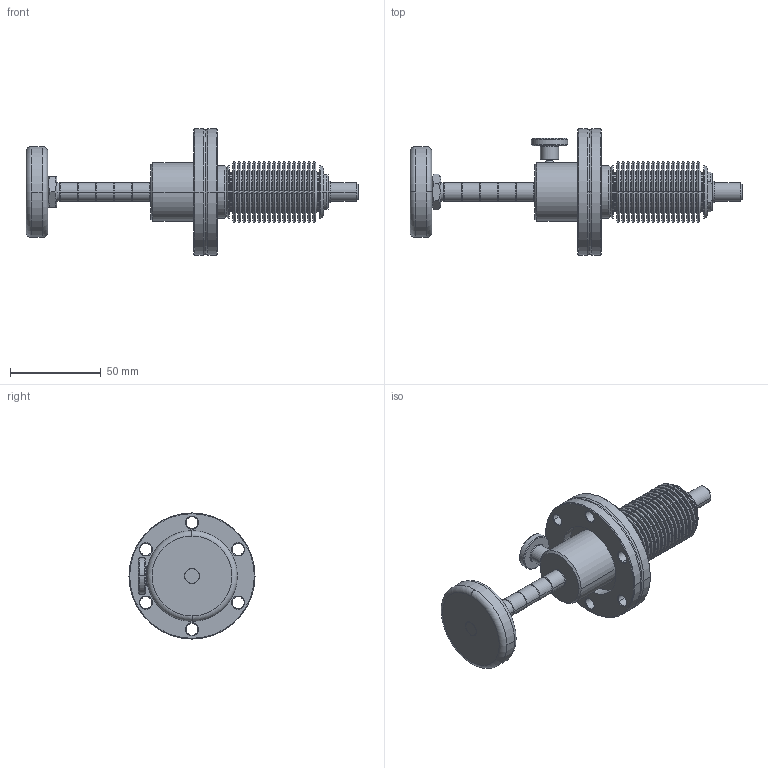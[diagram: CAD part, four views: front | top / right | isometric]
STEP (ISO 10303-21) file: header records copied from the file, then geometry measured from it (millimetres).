
FILE_DESCRIPTION((''),'2;1');
FILE_NAME('W:\214-332.stp','2004-01-23T16:33:18',('KAA'),(''),'Autodesk Inventor (R) 6.0','Autodesk Inventor (R) 6.0','');
FILE_SCHEMA(('CONFIG_CONTROL_DESIGN'));
Length unit declared in the file: millimetre
Products named in the file (1): 214-332
Bounding box: 183 x 69.5 x 69.5 mm (x, y, z)
Volume: 113052.6 mm3; surface area: 70978.1 mm2
Topology: 1 solids, 3 shells, 642 faces, 1621 edges, 1006 vertices
Faces by surface type: cone 220, bspline 170, torus 148, cylinder 68, plane 36
Entity records: 26240 total; most frequent: CARTESIAN_POINT 10318, DIRECTION 3818, ORIENTED_EDGE 3238, AXIS2_PLACEMENT_3D 1751, EDGE_CURVE 1619, CIRCLE 1278, VERTEX_POINT 1006, EDGE_LOOP 679
